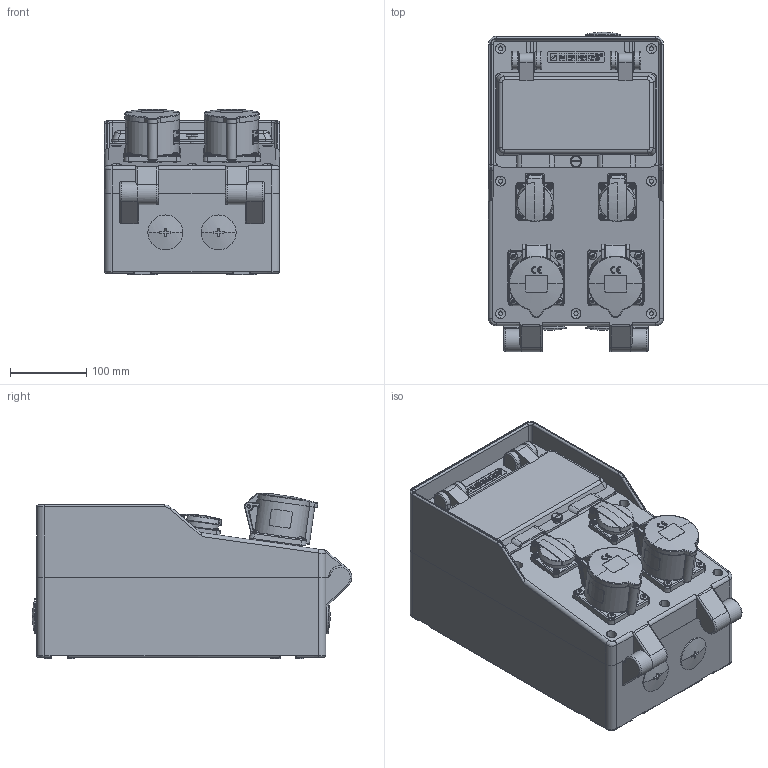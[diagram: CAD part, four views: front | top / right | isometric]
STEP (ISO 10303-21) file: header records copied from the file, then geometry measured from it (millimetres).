
FILE_DESCRIPTION((''),'2;1');
FILE_NAME('1117498_ASM_SW0002','2018-08-31T',('Gisse'),('MENNEKES'),'PRO/ENGINEER BY PARAMETRIC TECHNOLOGY CORPORATION, 2015440','PRO/ENGINEER BY PARAMETRIC TECHNOLOGY CORPORATION, 2015440','');
FILE_SCHEMA(('AUTOMOTIVE_DESIGN { 1 0 10303 214 1 1 1 1 }'));
Products named in the file (1): 1117498_ASM_SW0002
Bounding box: 230 x 419.67 x 217.28 mm (x, y, z)
Volume: 15281519.4 mm3; surface area: 707385.3 mm2
Topology: 1 solids, 2 shells, 3931 faces, 10569 edges, 6746 vertices
Faces by surface type: plane 2158, cylinder 764, cone 324, torus 278, bspline 256, sphere 86, extrusion 65
Entity records: 177388 total; most frequent: CARTESIAN_POINT 49621, ORIENTED_EDGE 21066, DIRECTION 17361, EDGE_CURVE 10533, VERTEX_POINT 6746, AXIS2_PLACEMENT_3D 6432, FILL_AREA_STYLE_COLOUR 5262, FILL_AREA_STYLE 5262
